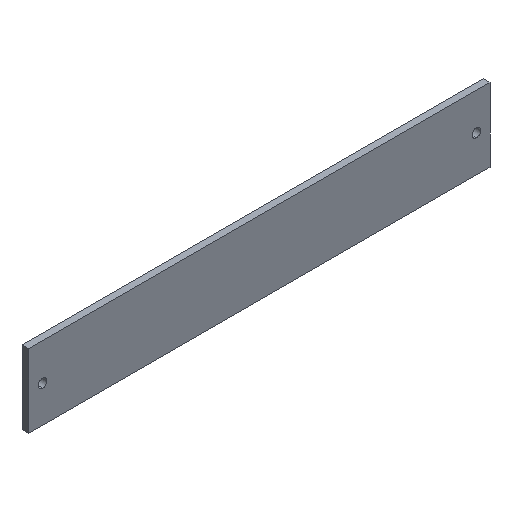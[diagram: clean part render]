
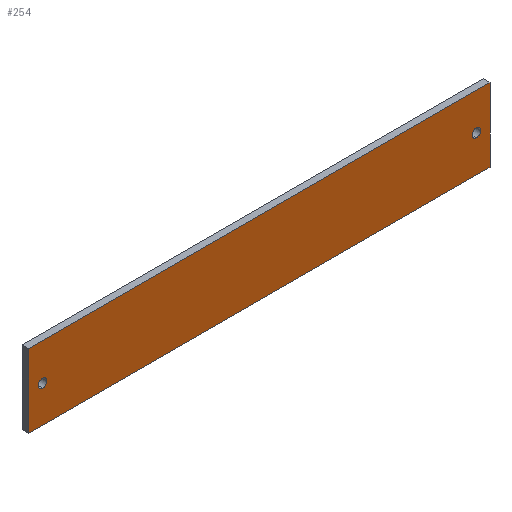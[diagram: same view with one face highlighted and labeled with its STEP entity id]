
A CAD part, isometric view. The second image highlights one B-rep face of the part: STEP entity #254.
In plain terms, the highlighted planar face has unit normal (0, -1, 0).
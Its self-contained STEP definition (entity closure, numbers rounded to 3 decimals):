
#1 = DIRECTION ( 'NONE',  ( 0., 0., -1. ) ) ;
#5 = CARTESIAN_POINT ( 'NONE',  ( 62.1, -1., 1.25 ) ) ;
#8 = EDGE_CURVE ( 'NONE', #286, #119, #80, .T. ) ;
#9 = AXIS2_PLACEMENT_3D ( 'NONE', #131, #293, #150 ) ;
#14 = ORIENTED_EDGE ( 'NONE', *, *, #176, .T. ) ;
#19 = EDGE_LOOP ( 'NONE', ( #211, #125, #257, #285 ) ) ;
#25 = CARTESIAN_POINT ( 'NONE',  ( -66., -1., 10.5 ) ) ;
#26 = CARTESIAN_POINT ( 'NONE',  ( -66., -1., -10.5 ) ) ;
#30 = EDGE_LOOP ( 'NONE', ( #244, #167 ) ) ;
#43 = VERTEX_POINT ( 'NONE', #49 ) ;
#49 = CARTESIAN_POINT ( 'NONE',  ( 62.1, -1., -1.25 ) ) ;
#50 = FACE_BOUND ( 'NONE', #256, .T. ) ;
#56 = EDGE_CURVE ( 'NONE', #144, #203, #220, .T. ) ;
#57 = EDGE_CURVE ( 'NONE', #263, #286, #127, .T. ) ;
#69 = VERTEX_POINT ( 'NONE', #5 ) ;
#72 = DIRECTION ( 'NONE',  ( 0., 1., 0. ) ) ;
#77 = VECTOR ( 'NONE', #85, 1000. ) ;
#80 = LINE ( 'NONE', #25, #170 ) ;
#85 = DIRECTION ( 'NONE',  ( -1., 0., 0. ) ) ;
#86 = LINE ( 'NONE', #99, #159 ) ;
#87 = AXIS2_PLACEMENT_3D ( 'NONE', #179, #111, #327 ) ;
#95 = DIRECTION ( 'NONE',  ( 0., 0., 1. ) ) ;
#99 = CARTESIAN_POINT ( 'NONE',  ( 66., -1., 10.5 ) ) ;
#102 = CARTESIAN_POINT ( 'NONE',  ( -66., -1., 10.5 ) ) ;
#111 = DIRECTION ( 'NONE',  ( 0., 1., 0. ) ) ;
#116 = DIRECTION ( 'NONE',  ( 0., 0., 1. ) ) ;
#117 = CIRCLE ( 'NONE', #259, 1.25 ) ;
#119 = VERTEX_POINT ( 'NONE', #102 ) ;
#124 = DIRECTION ( 'NONE',  ( 1., 0., 0. ) ) ;
#125 = ORIENTED_EDGE ( 'NONE', *, *, #57, .F. ) ;
#127 = LINE ( 'NONE', #265, #77 ) ;
#130 = DIRECTION ( 'NONE',  ( 0., 1., 0. ) ) ;
#131 = CARTESIAN_POINT ( 'NONE',  ( -62.1, -1., 0. ) ) ;
#137 = CARTESIAN_POINT ( 'NONE',  ( -66., -1., -10.5 ) ) ;
#144 = VERTEX_POINT ( 'NONE', #198 ) ;
#150 = DIRECTION ( 'NONE',  ( 0., 0., 1. ) ) ;
#151 = EDGE_CURVE ( 'NONE', #203, #144, #117, .T. ) ;
#152 = FACE_OUTER_BOUND ( 'NONE', #19, .T. ) ;
#159 = VECTOR ( 'NONE', #1, 1000. ) ;
#160 = CARTESIAN_POINT ( 'NONE',  ( 66., -1., -10.5 ) ) ;
#163 = EDGE_CURVE ( 'NONE', #119, #235, #255, .T. ) ;
#167 = ORIENTED_EDGE ( 'NONE', *, *, #151, .T. ) ;
#170 = VECTOR ( 'NONE', #322, 1000. ) ;
#176 = EDGE_CURVE ( 'NONE', #43, #69, #300, .T. ) ;
#177 = ORIENTED_EDGE ( 'NONE', *, *, #230, .T. ) ;
#179 = CARTESIAN_POINT ( 'NONE',  ( 62.1, -1., 0. ) ) ;
#185 = FACE_BOUND ( 'NONE', #30, .T. ) ;
#191 = CARTESIAN_POINT ( 'NONE',  ( 62.1, -1., 0. ) ) ;
#196 = VECTOR ( 'NONE', #124, 1000. ) ;
#198 = CARTESIAN_POINT ( 'NONE',  ( -62.1, -1., 1.25 ) ) ;
#203 = VERTEX_POINT ( 'NONE', #212 ) ;
#206 = EDGE_CURVE ( 'NONE', #235, #263, #86, .T. ) ;
#211 = ORIENTED_EDGE ( 'NONE', *, *, #8, .F. ) ;
#212 = CARTESIAN_POINT ( 'NONE',  ( -62.1, -1., -1.25 ) ) ;
#220 = CIRCLE ( 'NONE', #9, 1.25 ) ;
#223 = AXIS2_PLACEMENT_3D ( 'NONE', #191, #246, #260 ) ;
#228 = CARTESIAN_POINT ( 'NONE',  ( -62.1, -1., 0. ) ) ;
#230 = EDGE_CURVE ( 'NONE', #69, #43, #347, .T. ) ;
#235 = VERTEX_POINT ( 'NONE', #318 ) ;
#244 = ORIENTED_EDGE ( 'NONE', *, *, #56, .T. ) ;
#246 = DIRECTION ( 'NONE',  ( 0., 1., 0. ) ) ;
#254 = ADVANCED_FACE ( 'NONE', ( #185, #50, #152 ), #267, .F. ) ;
#255 = LINE ( 'NONE', #284, #196 ) ;
#256 = EDGE_LOOP ( 'NONE', ( #177, #14 ) ) ;
#257 = ORIENTED_EDGE ( 'NONE', *, *, #206, .F. ) ;
#259 = AXIS2_PLACEMENT_3D ( 'NONE', #228, #72, #95 ) ;
#260 = DIRECTION ( 'NONE',  ( 0., 0., 1. ) ) ;
#263 = VERTEX_POINT ( 'NONE', #160 ) ;
#265 = CARTESIAN_POINT ( 'NONE',  ( 66., -1., -10.5 ) ) ;
#267 = PLANE ( 'NONE',  #326 ) ;
#284 = CARTESIAN_POINT ( 'NONE',  ( 66., -1., 10.5 ) ) ;
#285 = ORIENTED_EDGE ( 'NONE', *, *, #163, .F. ) ;
#286 = VERTEX_POINT ( 'NONE', #137 ) ;
#293 = DIRECTION ( 'NONE',  ( 0., 1., 0. ) ) ;
#300 = CIRCLE ( 'NONE', #223, 1.25 ) ;
#318 = CARTESIAN_POINT ( 'NONE',  ( 66., -1., 10.5 ) ) ;
#322 = DIRECTION ( 'NONE',  ( 0., 0., 1. ) ) ;
#326 = AXIS2_PLACEMENT_3D ( 'NONE', #26, #130, #116 ) ;
#327 = DIRECTION ( 'NONE',  ( 0., 0., 1. ) ) ;
#347 = CIRCLE ( 'NONE', #87, 1.25 ) ;
